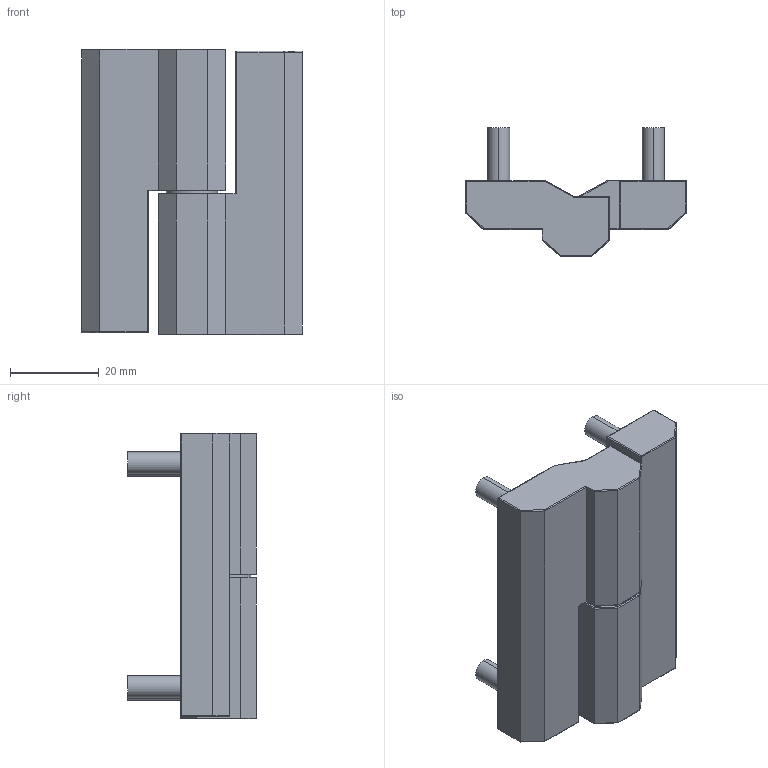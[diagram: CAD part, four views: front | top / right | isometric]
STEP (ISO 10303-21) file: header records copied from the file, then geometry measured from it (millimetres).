
FILE_DESCRIPTION (( 'STEP AP203' ), '1' );
FILE_NAME ('XG02-078.STEP', '2023-12-11T03:05:22', ( '' ), ( '' ), 'SwSTEP 2.0', 'SolidWorks 2020', '' );
FILE_SCHEMA (( 'CONFIG_CONTROL_DESIGN' ));
Length unit declared in the file: millimetre
Products named in the file (3): XG02-078; HL093 - A; HL093
Assembly tree (2 placements, depth 2):
  XG02-078
    HL093
    HL093 - A
Bounding box: 49.82 x 29 x 64.5 mm (x, y, z)
Volume: 26724.3 mm3; surface area: 14591.7 mm2
Topology: 2 solids, 3 shells, 151 faces, 360 edges, 216 vertices
Faces by surface type: cylinder 86, plane 55, sphere 6, torus 4
Entity records: 4553 total; most frequent: CARTESIAN_POINT 846, DIRECTION 728, ORIENTED_EDGE 708, EDGE_CURVE 354, AXIS2_PLACEMENT_3D 258, VERTEX_POINT 216, LINE 212, VECTOR 212
